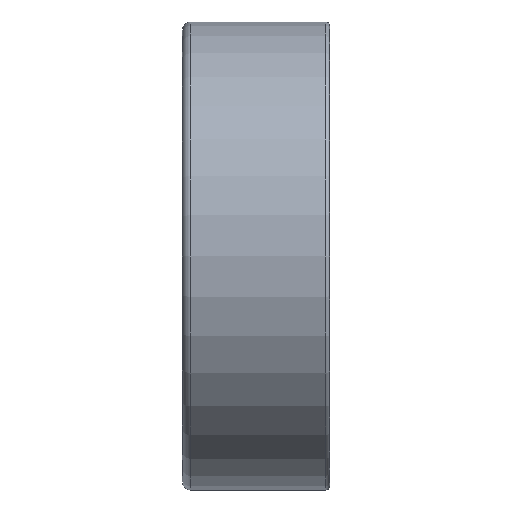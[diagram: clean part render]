
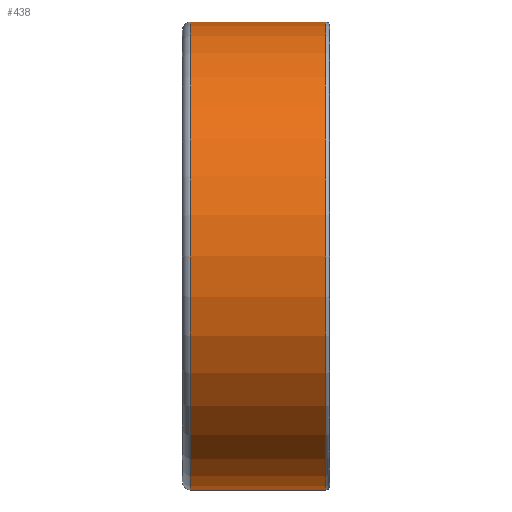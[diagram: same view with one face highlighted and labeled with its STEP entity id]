
A CAD part, front view. The second image highlights one B-rep face of the part: STEP entity #438.
In plain terms, the highlighted cylindrical face has radius 17.5 mm (diameter 35 mm), a full revolution.
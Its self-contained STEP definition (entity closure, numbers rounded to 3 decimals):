
#146=CYLINDRICAL_SURFACE('',#666,17.5);
#218=EDGE_LOOP('',(#302));
#219=EDGE_LOOP('',(#303));
#302=ORIENTED_EDGE('',*,*,#352,.F.);
#303=ORIENTED_EDGE('',*,*,#350,.T.);
#350=EDGE_CURVE('',#607,#607,#370,.T.);
#352=EDGE_CURVE('',#609,#609,#372,.T.);
#370=CIRCLE('',#662,17.5);
#372=CIRCLE('',#665,17.5);
#438=ADVANCED_FACE('',(#537,#538),#146,.T.);
#537=FACE_BOUND('',#218,.T.);
#538=FACE_BOUND('',#219,.T.);
#607=VERTEX_POINT('',#2170);
#609=VERTEX_POINT('',#2175);
#662=AXIS2_PLACEMENT_3D('',#2169,#769,#770);
#665=AXIS2_PLACEMENT_3D('',#2174,#775,#776);
#666=AXIS2_PLACEMENT_3D('',#2176,#777,#778);
#769=DIRECTION('',(1.,0.,0.));
#770=DIRECTION('',(0.,0.,-1.));
#775=DIRECTION('',(1.,0.,0.));
#776=DIRECTION('',(0.,0.,-1.));
#777=DIRECTION('',(1.,0.,0.));
#778=DIRECTION('',(0.,0.,-1.));
#2169=CARTESIAN_POINT('',(-4.9,0.,0.));
#2170=CARTESIAN_POINT('',(-4.9,0.,-17.5));
#2174=CARTESIAN_POINT('',(5.2,0.,0.));
#2175=CARTESIAN_POINT('',(5.2,0.,-17.5));
#2176=CARTESIAN_POINT('',(-4.9,0.,0.));
